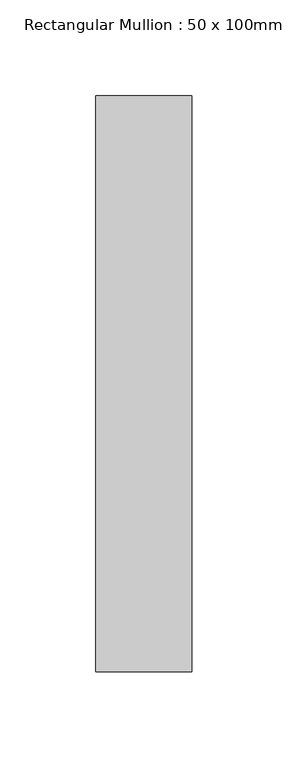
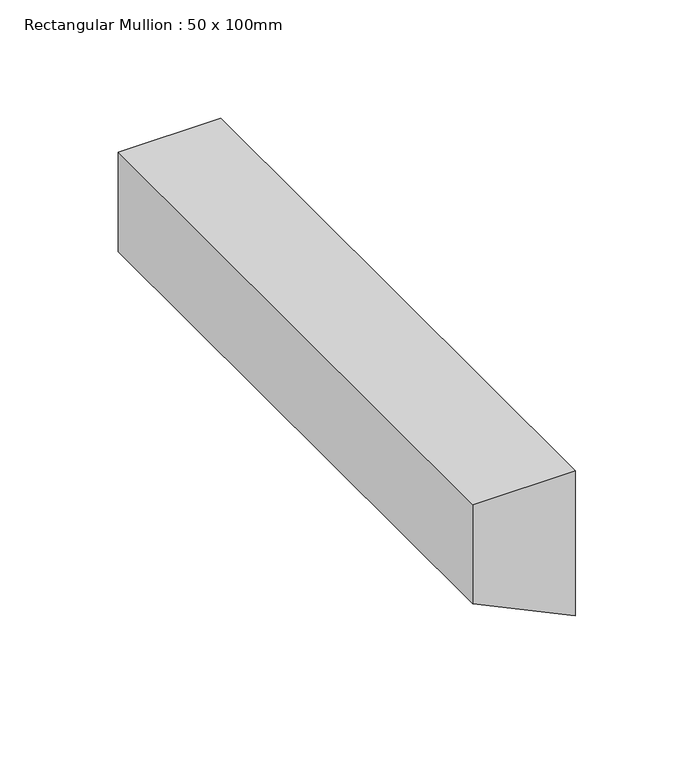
"""IFC4 building model written with IfcOpenShell, lengths in millimetres: member geometry, Rectangular Mullion : 50 x 100mm."""

from ifc_helpers import new_model, si_unit, frame, origin, place, context, project, spatial, polyline, outline, extrude, source, transform, mapped, element, save


def rectangular_mullion_50_x_100mm_03660b20(model_context):
    return source(origin(), model_context, "Body", "SweptSolid", [
        extrude(outline(polyline([(0.0, 0.0), (0.0, -50.0), (-51.2929017, -50.0), (-74.9690769, 0.0), (0.0, 0.0)])), frame((0.0, -125.0, 0.0), z_axis=(0.0, 1.0, 0.0), x_axis=(0.0, 0.0, 1.0)), (0.0, 0.0, 1.0), 300.0),
    ])


if __name__ == "__main__":
    model = new_model("IFC4")
    model_context = context("Model", 3, world=origin())
    ifc_project = project(units=[si_unit("LENGTHUNIT", "METRE", prefix="MILLI")], contexts=[model_context])
    site = spatial("IfcSite", under=ifc_project)
    building = spatial("IfcBuilding", under=site)
    placement = place(None, origin())
    rectangular_mullion_50_x_100mm_shape = rectangular_mullion_50_x_100mm_03660b20(model_context)
    element("IfcMember", 1, ObjectType="Rectangular Mullion : 50 x 100mm", at=placement, inside=building, context=model_context, shape_type="MappedRepresentation", body=[
        mapped(rectangular_mullion_50_x_100mm_shape, transform((0.0, 0.0, 0.0), x_axis=(1.0, 0.0, 0.0), y_axis=(0.0, 1.0, 0.0), z_axis=(0.0, 0.0, 1.0))),
    ])
    save(model, "model.ifc")
